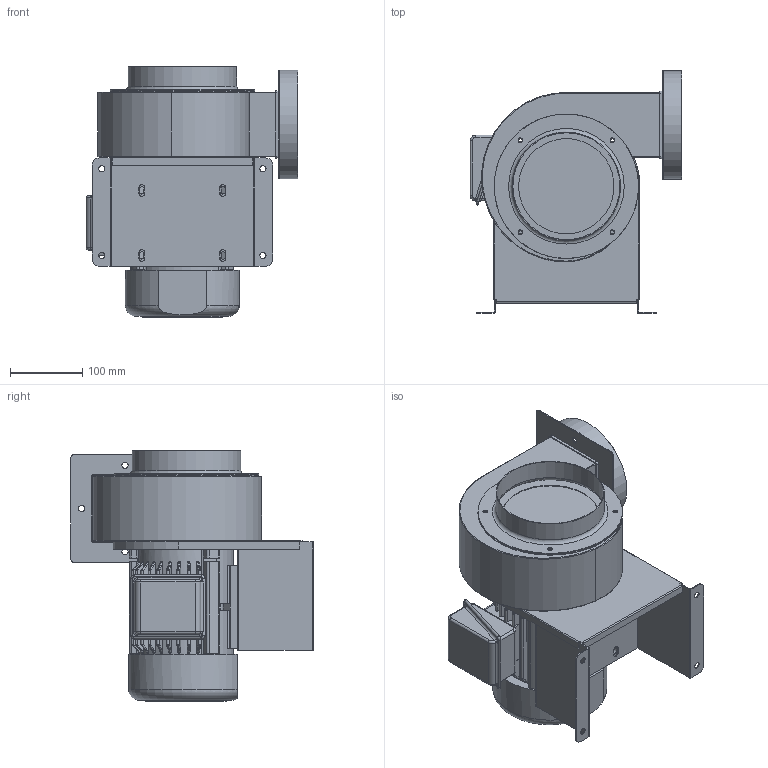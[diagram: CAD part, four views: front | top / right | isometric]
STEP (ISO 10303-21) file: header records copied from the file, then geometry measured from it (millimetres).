
FILE_DESCRIPTION(/* description */ ('Unknown'),/* implementation_level */ '2;1');
FILE_NAME(/* name */ 'CY150A2P3Y-EG 型錄',/* time_stamp */ '2026-04-01T17:43:59+08:00',/* author */ ('Unknown'),/* organization */ ('Unknown'),/* preprocessor_version */ 'ST-DEVELOPER v20',/* originating_system */ 'Solid Edge',/* authorisation */ 'Unknown');
FILE_SCHEMA (('AUTOMOTIVE_DESIGN {1 0 10303 214 3 1 1}'));
Length unit declared in the file: millimetre
Products named in the file (5): CY150A2P3Y-EG 型3; 321; CY180-05; CY150-04; 666
Assembly tree (4 placements, depth 2):
  CY150A2P3Y-EG 型3
    321
    CY180-05
    CY150-04
    666
Bounding box: 293.36 x 335.5 x 346.8 mm (x, y, z)
Volume: 8242733 mm3; surface area: 802029.5 mm2
Topology: 5 solids, 5 shells, 603 faces, 1600 edges, 1025 vertices
Faces by surface type: plane 218, cylinder 213, bspline 97, torus 37, cone 27, sphere 11
Full cylindrical faces by diameter (mm): 4.917 x4, 6 x2, 6.5 x8, 7 x4, 8.5 x12, 10 x2, 14 x1, 36 x1, 109 x1, 112 x1, 119 x1, 132 x1, 148 x2, 150 x2, 158 x2, 200 x2
Entity records: 20411 total; most frequent: CARTESIAN_POINT 6197, ORIENTED_EDGE 3002, DIRECTION 2734, EDGE_CURVE 1501, AXIS2_PLACEMENT_3D 1046, VERTEX_POINT 999, EDGE_LOOP 772, FACE_BOUND 772
